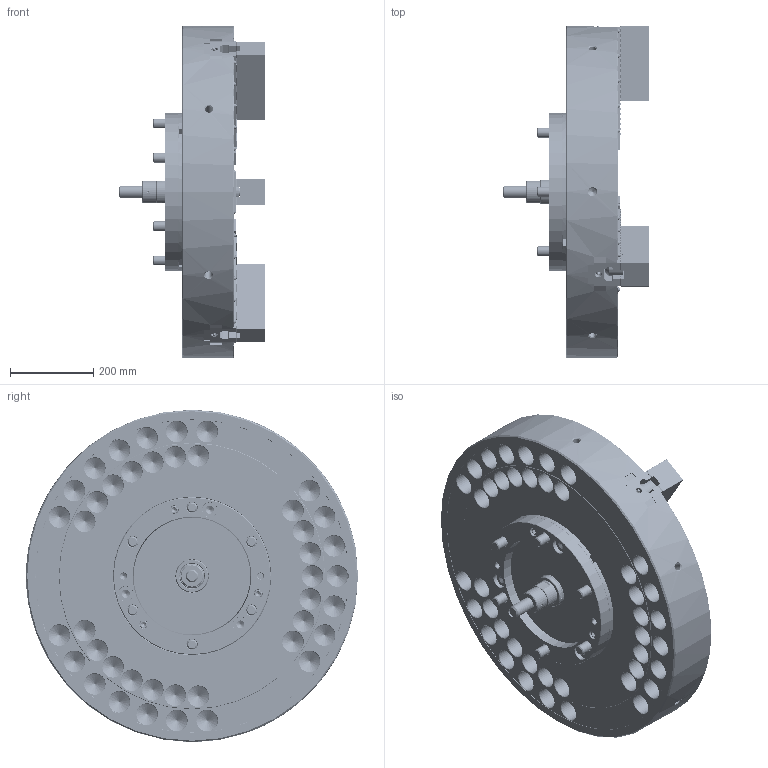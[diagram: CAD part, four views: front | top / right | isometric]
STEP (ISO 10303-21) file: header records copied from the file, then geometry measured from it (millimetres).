
FILE_DESCRIPTION (( 'STEP AP214' ), '1' );
FILE_NAME ('DT1_NV32C15_OUTSIDE_VIEW_UC.STEP', '2026-03-24T05:38:27', ( '' ), ( '' ), 'SwSTEP 2.0', 'SolidWorks 2022', '' );
FILE_SCHEMA (( 'AUTOMOTIVE_DESIGN' ));
Length unit declared in the file: millimetre
Products named in the file (18): Copy of 61P321208^DT1_NV32C1500; DT1_NV32C15_CAP^DT1_NV32C1500; DT1_NV32C15_ORING^DT1_NV32C1500; DT1_NV32C15_SOFTJAW^DT1_NV32C1500; DT1_NV32C15_S39^DT1_NV32C1500_円筒用; DT1_NV32C15_BASE^DT1_NV32C1500; DT1_NV32C15_COVER^DT1_NV32C1500; DT1_NV32C15_COVERFOOTER^DT1_NV32C1500; DT1_NV32C15_TNUT^DT1_NV32C1500; DT1_NV32C15_M6x12^DT1_NV32C1500; DT1_NV32C15_BP^DT1_NV32C1500; DT1_NV32C15_M24x160^DT1_NV32C1500; DT1_NV32C15_DRAWSCREW^DT1_NV32C1500; DT1_NV32C15_DN^DT1_NV32C1500; Copy of 0030112055^DT1_NV32C1500; DT1_NV32C15_OUTSIDE_VIEW_UC; DT1_NV32C15_M20x60^DT1_NV32C1500; DT1_NV32C15_P80^DT1_NV32C1500_円筒用
Assembly tree (48 placements, depth 2):
  DT1_NV32C15_OUTSIDE_VIEW_UC
    DT1_NV32C15_SOFTJAW^DT1_NV32C1500  x3
    DT1_NV32C15_TNUT^DT1_NV32C1500  x6
    DT1_NV32C15_COVER^DT1_NV32C1500
    DT1_NV32C15_DRAWSCREW^DT1_NV32C1500
    Copy of 61P321208^DT1_NV32C1500
    DT1_NV32C15_COVERFOOTER^DT1_NV32C1500
    DT1_NV32C15_M6x12^DT1_NV32C1500  x6
    Copy of 0030112055^DT1_NV32C1500  x3
    DT1_NV32C15_M20x60^DT1_NV32C1500  x6
    DT1_NV32C15_M24x160^DT1_NV32C1500  x6
    DT1_NV32C15_S39^DT1_NV32C1500_円筒用
    DT1_NV32C15_P80^DT1_NV32C1500_円筒用
    DT1_NV32C15_CAP^DT1_NV32C1500  x6
    DT1_NV32C15_ORING^DT1_NV32C1500  x3
    DT1_NV32C15_DN^DT1_NV32C1500
    DT1_NV32C15_BP^DT1_NV32C1500
    DT1_NV32C15_BASE^DT1_NV32C1500
Bounding box: 352 x 800 x 800 mm (x, y, z)
Volume: 61451675.2 mm3; surface area: 3242183 mm2
Topology: 48 solids, 126 shells, 11332 faces, 31564 edges, 20534 vertices
Faces by surface type: plane 6717, cylinder 2260, cone 1162, bspline 1027, torus 160, sphere 6
Entity records: 328687 total; most frequent: CARTESIAN_POINT 99103, ORIENTED_EDGE 51108, DIRECTION 41860, EDGE_CURVE 25554, VECTOR 18132, LINE 18132, VERTEX_POINT 16788, AXIS2_PLACEMENT_3D 11864
